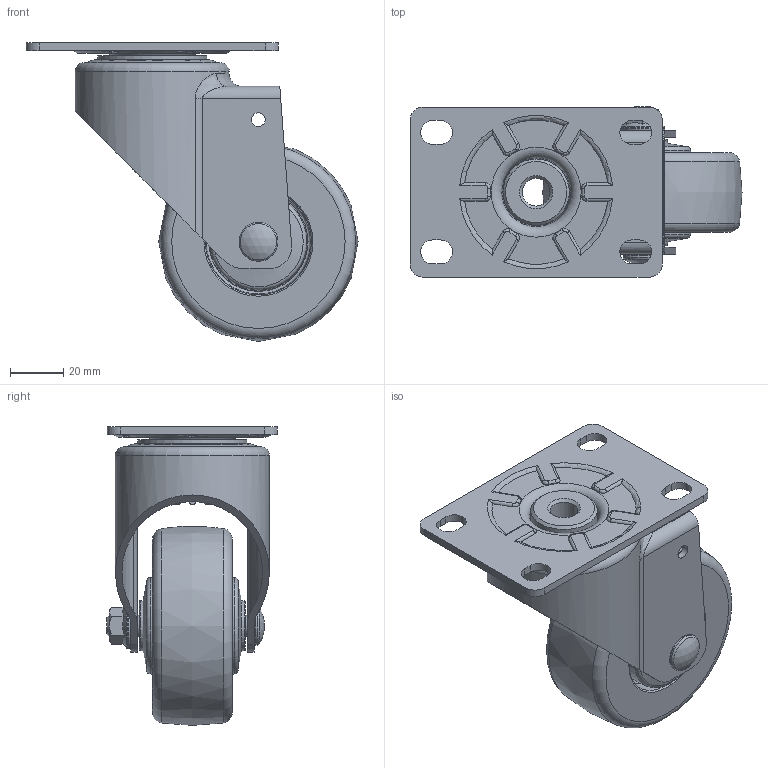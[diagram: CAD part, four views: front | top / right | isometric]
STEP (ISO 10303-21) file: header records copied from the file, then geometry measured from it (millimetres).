
FILE_DESCRIPTION(/* description */ (''),/* implementation_level */ '2;1');
FILE_NAME(/* name */ 'E:\홈페이지용3d\STEP\PL-75-ASF-LUD.stp',/* time_stamp */ '2015-03-19T11:38:07+09:00',/* author */ ('장용하'),/* organization */ (''),/* preprocessor_version */ 'ST-DEVELOPER v15.6',/* originating_system */ 'Autodesk Inventor 2015',/* authorisation */ '');
FILE_SCHEMA (('AUTOMOTIVE_DESIGN { 1 0 10303 214 3 1 1 }'));
Length unit declared in the file: centimetre
Products named in the file (1): PL-75-ASF-LUD
Bounding box: 125 x 64.25 x 112.5 mm (x, y, z)
Volume: 197813.5 mm3; surface area: 71285 mm2
Topology: 1 solids, 1 shells, 575 faces, 1411 edges, 852 vertices
Faces by surface type: plane 209, cylinder 209, torus 75, bspline 41, cone 40, sphere 1
Full cylindrical faces by diameter (mm): 5.2 x2, 8 x2, 10.441 x1, 12.084 x2, 12.5 x1, 14.6 x1, 15.5 x1, 16.9 x1, 17 x2, 24.667 x2, 25 x1, 32.333 x2, 34 x1, 36 x1, 41 x1, 53 x1, 58 x1
Entity records: 21353 total; most frequent: CARTESIAN_POINT 7766, DIRECTION 2792, ORIENTED_EDGE 2580, EDGE_CURVE 1287, AXIS2_PLACEMENT_3D 1123, VERTEX_POINT 839, EDGE_LOOP 727, CIRCLE 578
